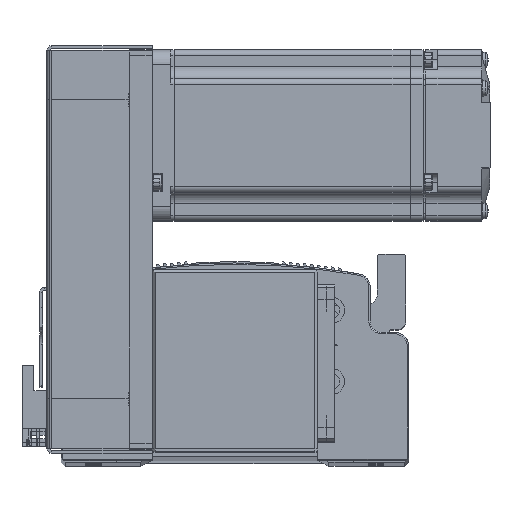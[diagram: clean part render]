
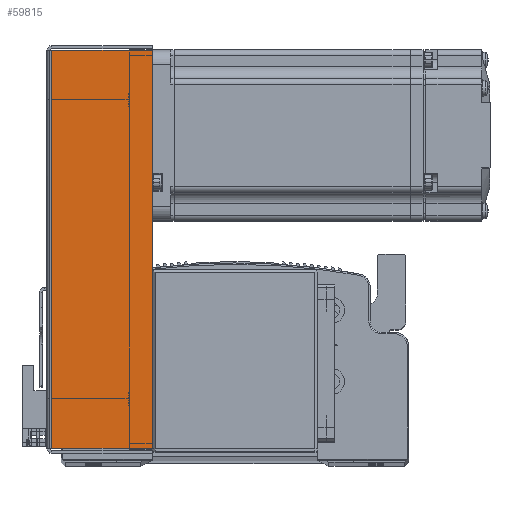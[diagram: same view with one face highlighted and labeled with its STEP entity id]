
A CAD part, top view. The second image highlights one B-rep face of the part: STEP entity #59815.
In plain terms, the highlighted planar face has unit normal (0, 0, 1) as drawn and (0, 0, -1) by its records, which use the part's own axes.
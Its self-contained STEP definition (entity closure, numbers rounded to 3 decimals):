
#1610 = ORIENTED_EDGE ( 'NONE', *, *, #91608, .F. ) ;
#1620 = ORIENTED_EDGE ( 'NONE', *, *, #91572, .F. ) ;
#1632 = ORIENTED_EDGE ( 'NONE', *, *, #91573, .T. ) ;
#1657 = ORIENTED_EDGE ( 'NONE', *, *, #91589, .T. ) ;
#12037 = VERTEX_POINT ( 'NONE', #84722 ) ;
#12049 = VERTEX_POINT ( 'NONE', #84727 ) ;
#12052 = VERTEX_POINT ( 'NONE', #84725 ) ;
#12061 = VERTEX_POINT ( 'NONE', #84688 ) ;
#18516 = VECTOR ( 'NONE', #24672, 1000. ) ;
#18548 = LINE ( 'NONE', #24637, #18549 ) ;
#18549 = VECTOR ( 'NONE', #24640, 1000. ) ;
#18559 = LINE ( 'NONE', #24642, #18516 ) ;
#18594 = VECTOR ( 'NONE', #24725, 1000. ) ;
#18608 = LINE ( 'NONE', #24757, #18594 ) ;
#18614 = VECTOR ( 'NONE', #24696, 1000. ) ;
#18618 = LINE ( 'NONE', #24687, #18614 ) ;
#24637 = CARTESIAN_POINT ( 'NONE',  ( 71.5, 0.737, -33.5 ) ) ;
#24640 = DIRECTION ( 'NONE',  ( 1., 0., 0. ) ) ;
#24642 = CARTESIAN_POINT ( 'NONE',  ( -69.793, 0., -33.5 ) ) ;
#24672 = DIRECTION ( 'NONE',  ( 0., 1., 0. ) ) ;
#24687 = CARTESIAN_POINT ( 'NONE',  ( 0., 36., -33.5 ) ) ;
#24696 = DIRECTION ( 'NONE',  ( 1., 0., 0. ) ) ;
#24725 = DIRECTION ( 'NONE',  ( 0., 1., 0. ) ) ;
#24757 = CARTESIAN_POINT ( 'NONE',  ( 69.793, 0., -33.5 ) ) ;
#29002 = AXIS2_PLACEMENT_3D ( 'NONE', #47405, #47366, #47389 ) ;
#46365 = FACE_OUTER_BOUND ( 'NONE', #55765, .T. ) ;
#47366 = DIRECTION ( 'NONE',  ( 0., 0., 1. ) ) ;
#47375 = PLANE ( 'NONE',  #29002 ) ;
#47389 = DIRECTION ( 'NONE',  ( 0., -1., 0. ) ) ;
#47405 = CARTESIAN_POINT ( 'NONE',  ( 0., 0., -33.5 ) ) ;
#55765 = EDGE_LOOP ( 'NONE', ( #1620, #1632, #1657, #1610 ) ) ;
#59815 = ADVANCED_FACE ( 'NONE', ( #46365 ), #47375, .F. ) ;
#84688 = CARTESIAN_POINT ( 'NONE',  ( 69.793, 36., -33.5 ) ) ;
#84722 = CARTESIAN_POINT ( 'NONE',  ( -69.793, 36., -33.5 ) ) ;
#84725 = CARTESIAN_POINT ( 'NONE',  ( 69.793, 0.737, -33.5 ) ) ;
#84727 = CARTESIAN_POINT ( 'NONE',  ( -69.793, 0.737, -33.5 ) ) ;
#91572 = EDGE_CURVE ( 'NONE', #12049, #12052, #18548, .T. ) ;
#91573 = EDGE_CURVE ( 'NONE', #12049, #12037, #18559, .T. ) ;
#91589 = EDGE_CURVE ( 'NONE', #12037, #12061, #18618, .T. ) ;
#91608 = EDGE_CURVE ( 'NONE', #12052, #12061, #18608, .T. ) ;
